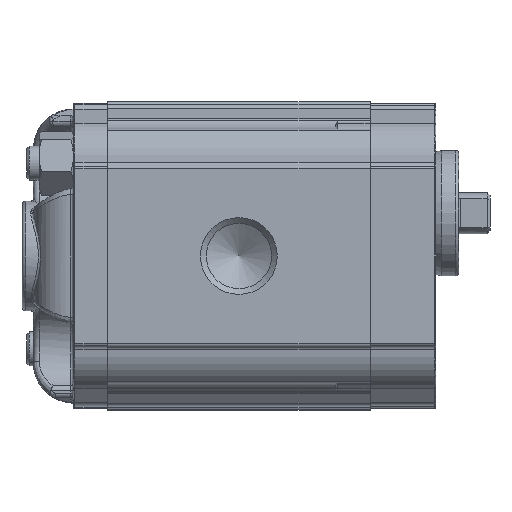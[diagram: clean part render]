
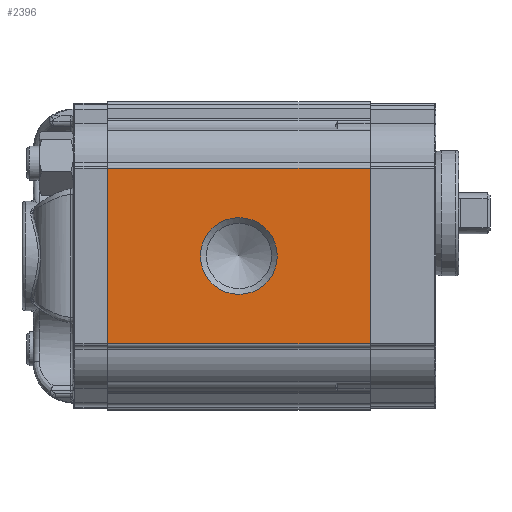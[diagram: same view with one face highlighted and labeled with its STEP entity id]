
A CAD part, left-side view. The second image highlights one B-rep face of the part: STEP entity #2396.
In plain terms, the highlighted planar face has unit normal (-1, 0, 0).
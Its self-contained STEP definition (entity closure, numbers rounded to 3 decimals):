
#2396 = ADVANCED_FACE( '', ( #5028, #5029 ), #5030, .T. );
#5028 = FACE_BOUND( '', #9732, .T. );
#5029 = FACE_OUTER_BOUND( '', #9733, .T. );
#5030 = PLANE( '', #9734 );
#9732 = EDGE_LOOP( '', ( #16990 ) );
#9733 = EDGE_LOOP( '', ( #16991, #16992, #16993, #16994 ) );
#9734 = AXIS2_PLACEMENT_3D( '', #16995, #16996, #16997 );
#16990 = ORIENTED_EDGE( '', *, *, #20880, .T. );
#16991 = ORIENTED_EDGE( '', *, *, #19999, .F. );
#16992 = ORIENTED_EDGE( '', *, *, #18618, .F. );
#16993 = ORIENTED_EDGE( '', *, *, #20822, .T. );
#16994 = ORIENTED_EDGE( '', *, *, #20881, .T. );
#16995 = CARTESIAN_POINT( '', ( -25., 46., 15.418 ) );
#16996 = DIRECTION( '', ( -1., 0., 0. ) );
#16997 = DIRECTION( '', ( 0., 0., 1. ) );
#18618 = EDGE_CURVE( '', #22158, #22154, #22160, .T. );
#19999 = EDGE_CURVE( '', #22154, #24207, #24208, .T. );
#20822 = EDGE_CURVE( '', #22158, #25188, #25190, .T. );
#20880 = EDGE_CURVE( '', #25242, #25242, #25243, .F. );
#20881 = EDGE_CURVE( '', #25188, #24207, #25244, .T. );
#22154 = VERTEX_POINT( '', #27846 );
#22158 = VERTEX_POINT( '', #27851 );
#22160 = LINE( '', #27853, #27854 );
#24207 = VERTEX_POINT( '', #32545 );
#24208 = LINE( '', #32546, #32547 );
#25188 = VERTEX_POINT( '', #34666 );
#25190 = LINE( '', #34668, #34669 );
#25242 = VERTEX_POINT( '', #34748 );
#25243 = CIRCLE( '', #34749, 6.723 );
#25244 = LINE( '', #34750, #34751 );
#27846 = CARTESIAN_POINT( '', ( -25., 0., 15.418 ) );
#27851 = CARTESIAN_POINT( '', ( -25., 46., 15.418 ) );
#27853 = CARTESIAN_POINT( '', ( -25., 46., 15.418 ) );
#27854 = VECTOR( '', #35832, 1000. );
#32545 = CARTESIAN_POINT( '', ( -25., 0., -15.418 ) );
#32546 = CARTESIAN_POINT( '', ( -25., 0., 15.418 ) );
#32547 = VECTOR( '', #37543, 1000. );
#34666 = CARTESIAN_POINT( '', ( -25., 46., -15.418 ) );
#34668 = CARTESIAN_POINT( '', ( -25., 46., 15.418 ) );
#34669 = VECTOR( '', #38449, 1000. );
#34748 = CARTESIAN_POINT( '', ( -25., 23., 6.723 ) );
#34749 = AXIS2_PLACEMENT_3D( '', #38469, #38470, #38471 );
#34750 = CARTESIAN_POINT( '', ( -25., 46., -15.418 ) );
#34751 = VECTOR( '', #38472, 1000. );
#35832 = DIRECTION( '', ( 0., -1., 0. ) );
#37543 = DIRECTION( '', ( 0., 0., -1. ) );
#38449 = DIRECTION( '', ( 0., 0., -1. ) );
#38469 = CARTESIAN_POINT( '', ( -25., 23., 0. ) );
#38470 = DIRECTION( '', ( -1., 0., 0. ) );
#38471 = DIRECTION( '', ( 0., 0., 1. ) );
#38472 = DIRECTION( '', ( 0., -1., 0. ) );
